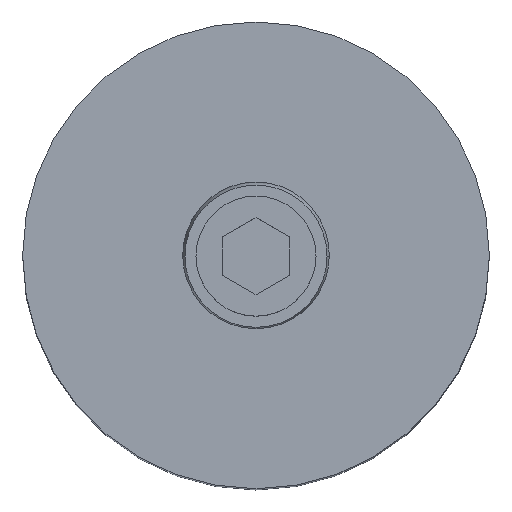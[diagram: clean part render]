
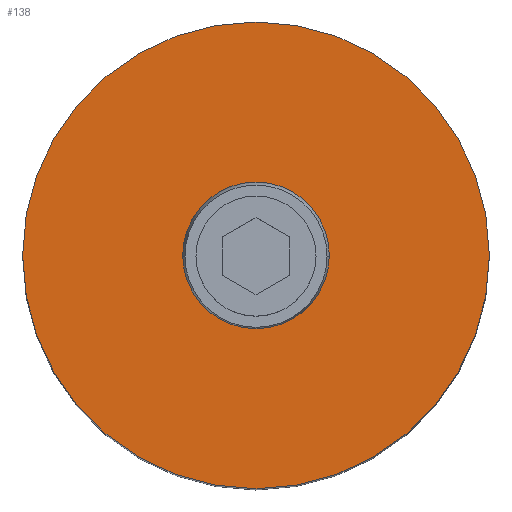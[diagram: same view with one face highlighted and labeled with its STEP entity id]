
A CAD part, top view. The second image highlights one B-rep face of the part: STEP entity #138.
In plain terms, the highlighted planar face has unit normal (0, 0, 1).
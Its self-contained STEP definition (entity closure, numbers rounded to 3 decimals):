
#107=PLANE('',#636);
#122=FACE_BOUND('',#215,.T.);
#123=FACE_BOUND('',#216,.T.);
#138=ADVANCED_FACE('',(#122,#123),#107,.T.);
#215=EDGE_LOOP('',(#297,#298));
#216=EDGE_LOOP('',(#299,#300));
#255=CIRCLE('',#628,35.);
#258=CIRCLE('',#632,35.);
#259=CIRCLE('',#634,11.);
#260=CIRCLE('',#635,11.);
#297=ORIENTED_EDGE('',*,*,#484,.T.);
#298=ORIENTED_EDGE('',*,*,#480,.T.);
#299=ORIENTED_EDGE('',*,*,#485,.F.);
#300=ORIENTED_EDGE('',*,*,#486,.F.);
#434=VERTEX_POINT('',#878);
#435=VERTEX_POINT('',#880);
#437=VERTEX_POINT('',#889);
#438=VERTEX_POINT('',#890);
#480=EDGE_CURVE('',#435,#434,#255,.T.);
#484=EDGE_CURVE('',#434,#435,#258,.T.);
#485=EDGE_CURVE('',#437,#438,#259,.T.);
#486=EDGE_CURVE('',#438,#437,#260,.T.);
#628=AXIS2_PLACEMENT_3D('',#879,#700,#701);
#632=AXIS2_PLACEMENT_3D('',#886,#709,#710);
#634=AXIS2_PLACEMENT_3D('',#888,#713,#714);
#635=AXIS2_PLACEMENT_3D('',#891,#715,#716);
#636=AXIS2_PLACEMENT_3D('',#892,#717,#718);
#700=DIRECTION('',(0.,0.,1.));
#701=DIRECTION('',(0.,1.,0.));
#709=DIRECTION('',(0.,0.,1.));
#710=DIRECTION('',(0.,-1.,0.));
#713=DIRECTION('',(0.,0.,1.));
#714=DIRECTION('',(0.,1.,0.));
#715=DIRECTION('',(0.,0.,1.));
#716=DIRECTION('',(0.,-1.,0.));
#717=DIRECTION('',(0.,0.,1.));
#718=DIRECTION('',(0.,-1.,0.));
#878=CARTESIAN_POINT('',(35.,0.,110.));
#879=CARTESIAN_POINT('',(0.,0.,110.));
#880=CARTESIAN_POINT('',(-35.,0.,110.));
#886=CARTESIAN_POINT('',(0.,0.,110.));
#888=CARTESIAN_POINT('',(0.,0.,110.));
#889=CARTESIAN_POINT('',(-11.,0.,110.));
#890=CARTESIAN_POINT('',(11.,0.,110.));
#891=CARTESIAN_POINT('',(0.,0.,110.));
#892=CARTESIAN_POINT('',(0.,0.,110.));
